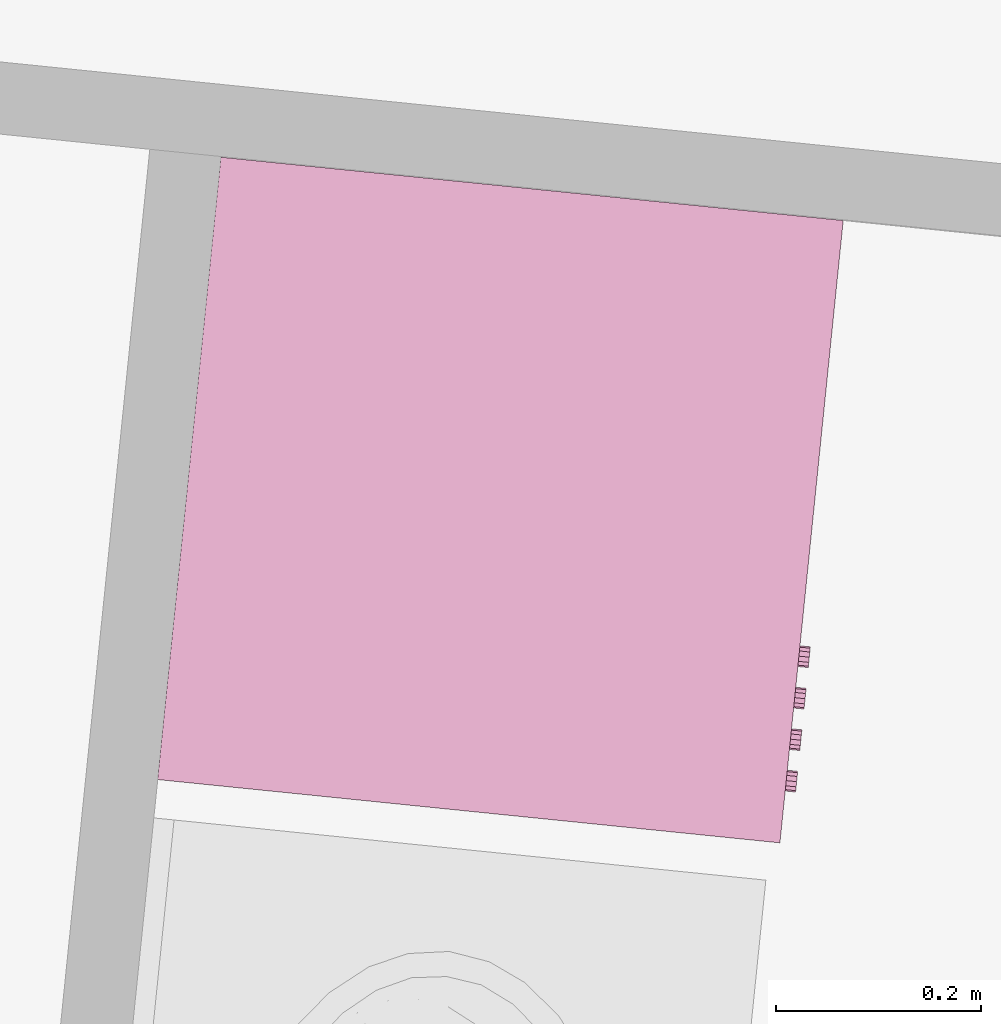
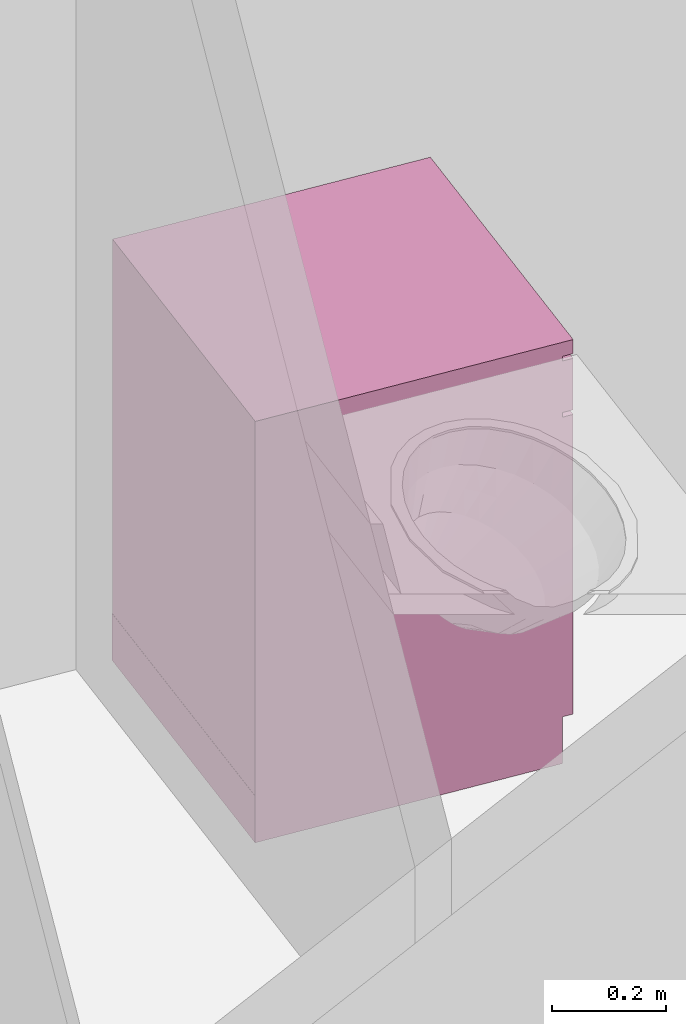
# One storey, part 135 of 164: 1 furnishing.
"""IFC2X3 building model written with IfcOpenShell, lengths in millimetres."""

from ifc_helpers import new_model, entity, si_unit, converted_unit, derived_unit, money_unit, direction, frame, origin_with_axes, place, context, subcontext, project, spatial, open_shell, faceted_brep, surface_model, type_object, element, save


model = new_model("IFC2X3")

# Units and contexts
model_context = context("Model", 3, precision=0.01, world=origin_with_axes(), true_north=direction((0.0, 1.0)))
body_context = subcontext(model_context, "Body", "Model", "MODEL_VIEW")
ifc_project = project(units=[si_unit("LENGTHUNIT", "METRE", prefix="MILLI"), si_unit("AREAUNIT", "SQUARE_METRE"), si_unit("VOLUMEUNIT", "CUBIC_METRE"), converted_unit("PLANEANGLEUNIT", "DEGREE", entity("IfcPlaneAngleMeasure", 0.0174532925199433), si_unit("PLANEANGLEUNIT", "RADIAN"), dimensions=[0, 0, 0, 0, 0, 0, 0]), money_unit("USD"), converted_unit("TIMEUNIT", "Year", entity("IfcTimeMeasure", 31557600.0), si_unit("TIMEUNIT", "SECOND"), dimensions=[0, 0, 1, 0, 0, 0, 0]), si_unit("MASSUNIT", "GRAM", prefix="KILO"), si_unit("THERMODYNAMICTEMPERATUREUNIT", "DEGREE_CELSIUS"), si_unit("LUMINOUSINTENSITYUNIT", "LUMEN"), si_unit("ENERGYUNIT", "JOULE", prefix="MEGA"), derived_unit("THERMALCONDUCTANCEUNIT", [(si_unit("POWERUNIT", "WATT"), 1), (si_unit("LENGTHUNIT", "METRE"), -1), (si_unit("THERMODYNAMICTEMPERATUREUNIT", "KELVIN"), -1)]), derived_unit("SPECIFICHEATCAPACITYUNIT", [(si_unit("ENERGYUNIT", "JOULE"), 1), (si_unit("MASSUNIT", "GRAM", prefix="KILO"), -1), (si_unit("THERMODYNAMICTEMPERATUREUNIT", "KELVIN"), -1)]), derived_unit("MASSDENSITYUNIT", [(si_unit("MASSUNIT", "GRAM", prefix="KILO"), 1), (si_unit("VOLUMEUNIT", "CUBIC_METRE"), -1)])], contexts=[model_context])

# Site, building, storey
site_placement = place(None, origin_with_axes())
site = spatial("IfcSite", under=ifc_project, at=site_placement, Name="Site", CompositionType="ELEMENT")
building_placement = place(site_placement, origin_with_axes())
building = spatial("IfcBuilding", under=site, at=building_placement, Name="Bâtiment", CompositionType="ELEMENT")
storey_placement = place(building_placement, frame((0.0, 0.0, 5750.0), z_axis=(0.0, 0.0, 1.0), x_axis=(1.0, 0.0, 0.0)))
storey = spatial("IfcBuildingStorey", under=building, at=storey_placement, Name="Etage1", CompositionType="ELEMENT", Elevation=5750.0)

# Furnishing
furnishing_element_type = type_object("IfcFurnishingElementType", Name="Machine à laver")
furnishing_placement = place(storey_placement, frame((2232076.43638497, -610512.6608663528, 0.0), z_axis=(0.0, 0.0, 1.0), x_axis=(0.10118792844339, 0.9948673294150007, 0.0)))
element("IfcFurnishingElement", 1, at=furnishing_placement, inside=storey, type_object=furnishing_element_type, Name="Obj.-003", context=body_context, shape_type="SurfaceModel", body=[
    faceted_brep([(0.0, 20.33333333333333, 100.0), (610.0, 20.33333333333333, 100.0), (610.0, 0.0, 100.0), (0.0, 0.0, 100.0), (0.0, 20.33333333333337, 740.0), (610.0, 20.33333333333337, 740.0), (479.2857142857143, 20.33333333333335, 420.0000000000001), (473.3470725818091, 20.33333333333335, 465.1084621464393), (455.935856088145, 20.33333333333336, 507.1428571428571), (428.2386104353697, 20.33333333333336, 543.2386104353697), (392.1428571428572, 20.33333333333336, 570.935856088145), (350.1084621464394, 20.33333333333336, 588.347072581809), (305.0000000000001, 20.33333333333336, 594.2857142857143), (259.8915378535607, 20.33333333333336, 588.347072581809), (217.8571428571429, 20.33333333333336, 570.9358560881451), (181.7613895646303, 20.33333333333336, 543.2386104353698), (154.0641439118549, 20.33333333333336, 507.1428571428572), (136.6529274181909, 20.33333333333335, 465.1084621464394), (130.7142857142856, 20.33333333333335, 420.0000000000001), (136.6529274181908, 20.33333333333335, 374.8915378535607), (154.0641439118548, 20.33333333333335, 332.8571428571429), (181.7613895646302, 20.33333333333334, 296.7613895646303), (217.8571428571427, 20.33333333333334, 269.064143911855), (259.8915378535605, 20.33333333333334, 251.6529274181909), (304.9999999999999, 20.33333333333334, 245.7142857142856), (350.1084621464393, 20.33333333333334, 251.6529274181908), (392.1428571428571, 20.33333333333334, 269.0641439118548), (428.2386104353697, 20.33333333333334, 296.7613895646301), (455.935856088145, 20.33333333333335, 332.8571428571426), (473.3470725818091, 20.33333333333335, 374.8915378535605), (610.0, 0.0, 740.0), (0.0, 0.0, 740.0), (479.2857142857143, 0.0, 420.0000000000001), (473.3470725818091, 0.0, 374.8915378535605), (455.935856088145, 0.0, 332.8571428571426), (428.2386104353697, 0.0, 296.7613895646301), (392.1428571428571, 0.0, 269.0641439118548), (350.1084621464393, 0.0, 251.6529274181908), (304.9999999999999, 0.0, 245.7142857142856), (259.8915378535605, 0.0, 251.6529274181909), (217.8571428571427, 0.0, 269.064143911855), (181.7613895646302, 0.0, 296.7613895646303), (154.0641439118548, 0.0, 332.8571428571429), (136.6529274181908, 0.0, 374.8915378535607), (130.7142857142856, 0.0, 420.0000000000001), (136.6529274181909, 0.0, 465.1084621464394), (154.0641439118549, 0.0, 507.1428571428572), (181.7613895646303, 0.0, 543.2386104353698), (217.8571428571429, 0.0, 570.9358560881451), (259.8915378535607, 0.0, 588.347072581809), (305.0000000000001, 0.0, 594.2857142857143), (350.1084621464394, 0.0, 588.347072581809), (392.1428571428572, 0.0, 570.935856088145), (428.2386104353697, 0.0, 543.2386104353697), (455.935856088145, 0.0, 507.1428571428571), (473.3470725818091, 0.0, 465.1084621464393)], [[[0, 1, 2, 3]], [[0, 4, 5, 1], [6, 7, 8, 9, 10, 11, 12, 13, 14, 15, 16, 17, 18, 19, 20, 21, 22, 23, 24, 25, 26, 27, 28, 29]], [[1, 5, 30, 2]], [[3, 2, 30, 31], [32, 33, 34, 35, 36, 37, 38, 39, 40, 41, 42, 43, 44, 45, 46, 47, 48, 49, 50, 51, 52, 53, 54, 55]], [[4, 0, 3, 31]], [[5, 4, 31, 30]], [[7, 6, 32, 55]], [[8, 7, 55, 54]], [[9, 8, 54, 53]], [[10, 9, 53, 52]], [[11, 10, 52, 51]], [[12, 11, 51, 50]], [[13, 12, 50, 49]], [[14, 13, 49, 48]], [[15, 14, 48, 47]], [[16, 15, 47, 46]], [[17, 16, 46, 45]], [[18, 17, 45, 44]], [[19, 18, 44, 43]], [[20, 19, 43, 42]], [[21, 20, 42, 41]], [[22, 21, 41, 40]], [[23, 22, 40, 39]], [[24, 23, 39, 38]], [[25, 24, 38, 37]], [[26, 25, 37, 36]], [[27, 26, 36, 35]], [[28, 27, 35, 34]], [[29, 28, 34, 33]], [[6, 29, 33, 32]]]),
    faceted_brep([(479.2857142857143, 40.66666666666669, 420.0000000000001), (473.3470725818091, 40.66666666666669, 465.1084621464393), (473.3470725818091, 20.33333333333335, 465.1084621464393), (479.2857142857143, 20.33333333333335, 420.0000000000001), (473.3470725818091, 40.66666666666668, 374.8915378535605), (455.935856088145, 40.66666666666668, 332.8571428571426), (428.2386104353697, 40.66666666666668, 296.7613895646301), (392.1428571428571, 40.66666666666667, 269.0641439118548), (350.1084621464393, 40.66666666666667, 251.6529274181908), (304.9999999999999, 40.66666666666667, 245.7142857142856), (259.8915378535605, 40.66666666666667, 251.6529274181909), (217.8571428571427, 40.66666666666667, 269.064143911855), (181.7613895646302, 40.66666666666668, 296.7613895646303), (154.0641439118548, 40.66666666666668, 332.8571428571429), (136.6529274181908, 40.66666666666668, 374.8915378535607), (130.7142857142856, 40.66666666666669, 420.0000000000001), (136.6529274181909, 40.66666666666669, 465.1084621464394), (154.0641439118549, 40.66666666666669, 507.1428571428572), (181.7613895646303, 40.66666666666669, 543.2386104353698), (217.8571428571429, 40.66666666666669, 570.9358560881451), (259.8915378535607, 40.66666666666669, 588.347072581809), (305.0000000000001, 40.66666666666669, 594.2857142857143), (350.1084621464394, 40.66666666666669, 588.347072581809), (392.1428571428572, 40.66666666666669, 570.935856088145), (428.2386104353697, 40.66666666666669, 543.2386104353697), (455.935856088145, 40.66666666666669, 507.1428571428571), (444.4285714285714, 40.66666666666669, 420.0000000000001), (439.6776580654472, 40.66666666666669, 456.0867697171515), (425.748684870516, 40.66666666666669, 489.7142857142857), (403.5908883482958, 40.66666666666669, 518.5908883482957), (374.7142857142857, 40.66666666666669, 540.748684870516), (341.0867697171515, 40.66666666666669, 554.6776580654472), (305.0000000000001, 40.66666666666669, 559.4285714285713), (268.9132302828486, 40.66666666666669, 554.6776580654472), (235.2857142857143, 40.66666666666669, 540.7486848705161), (206.4091116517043, 40.66666666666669, 518.5908883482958), (184.251315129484, 40.66666666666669, 489.7142857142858), (170.3223419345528, 40.66666666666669, 456.0867697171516), (165.5714285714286, 40.66666666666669, 420.0000000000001), (170.3223419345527, 40.66666666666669, 383.9132302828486), (184.2513151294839, 40.66666666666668, 350.2857142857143), (206.4091116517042, 40.66666666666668, 321.4091116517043), (235.2857142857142, 40.66666666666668, 299.251315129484), (268.9132302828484, 40.66666666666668, 285.3223419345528), (304.9999999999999, 40.66666666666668, 280.5714285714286), (341.0867697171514, 40.66666666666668, 285.3223419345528), (374.7142857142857, 40.66666666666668, 299.2513151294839), (403.5908883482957, 40.66666666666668, 321.4091116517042), (425.748684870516, 40.66666666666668, 350.2857142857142), (439.6776580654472, 40.66666666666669, 383.9132302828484), (455.935856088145, 20.33333333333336, 507.1428571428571), (428.2386104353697, 20.33333333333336, 543.2386104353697), (392.1428571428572, 20.33333333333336, 570.935856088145), (350.1084621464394, 20.33333333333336, 588.347072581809), (305.0000000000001, 20.33333333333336, 594.2857142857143), (259.8915378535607, 20.33333333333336, 588.347072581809), (217.8571428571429, 20.33333333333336, 570.9358560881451), (181.7613895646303, 20.33333333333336, 543.2386104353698), (154.0641439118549, 20.33333333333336, 507.1428571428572), (136.6529274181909, 20.33333333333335, 465.1084621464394), (130.7142857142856, 20.33333333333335, 420.0000000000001), (136.6529274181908, 20.33333333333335, 374.8915378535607), (154.0641439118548, 20.33333333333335, 332.8571428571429), (181.7613895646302, 20.33333333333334, 296.7613895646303), (217.8571428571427, 20.33333333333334, 269.064143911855), (259.8915378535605, 20.33333333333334, 251.6529274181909), (304.9999999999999, 20.33333333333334, 245.7142857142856), (350.1084621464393, 20.33333333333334, 251.6529274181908), (392.1428571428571, 20.33333333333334, 269.0641439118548), (428.2386104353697, 20.33333333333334, 296.7613895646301), (455.935856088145, 20.33333333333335, 332.8571428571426), (473.3470725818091, 20.33333333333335, 374.8915378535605), (444.4285714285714, 20.33333333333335, 420.0000000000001), (439.6776580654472, 20.33333333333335, 383.9132302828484), (425.748684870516, 20.33333333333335, 350.2857142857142), (403.5908883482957, 20.33333333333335, 321.4091116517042), (374.7142857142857, 20.33333333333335, 299.2513151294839), (341.0867697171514, 20.33333333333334, 285.3223419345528), (304.9999999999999, 20.33333333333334, 280.5714285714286), (268.9132302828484, 20.33333333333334, 285.3223419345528), (235.2857142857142, 20.33333333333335, 299.251315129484), (206.4091116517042, 20.33333333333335, 321.4091116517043), (184.2513151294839, 20.33333333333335, 350.2857142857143), (170.3223419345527, 20.33333333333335, 383.9132302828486), (165.5714285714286, 20.33333333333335, 420.0000000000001), (170.3223419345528, 20.33333333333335, 456.0867697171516), (184.251315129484, 20.33333333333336, 489.7142857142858), (206.4091116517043, 20.33333333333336, 518.5908883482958), (235.2857142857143, 20.33333333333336, 540.7486848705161), (268.9132302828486, 20.33333333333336, 554.6776580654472), (305.0000000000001, 20.33333333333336, 559.4285714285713), (341.0867697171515, 20.33333333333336, 554.6776580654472), (374.7142857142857, 20.33333333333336, 540.748684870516), (403.5908883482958, 20.33333333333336, 518.5908883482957), (425.748684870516, 20.33333333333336, 489.7142857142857), (439.6776580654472, 20.33333333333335, 456.0867697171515)], [[[0, 1, 2, 3]], [[0, 4, 5, 6, 7, 8, 9, 10, 11, 12, 13, 14, 15, 16, 17, 18, 19, 20, 21, 22, 23, 24, 25, 1], [26, 27, 28, 29, 30, 31, 32, 33, 34, 35, 36, 37, 38, 39, 40, 41, 42, 43, 44, 45, 46, 47, 48, 49]], [[1, 25, 50, 2]], [[3, 2, 50, 51, 52, 53, 54, 55, 56, 57, 58, 59, 60, 61, 62, 63, 64, 65, 66, 67, 68, 69, 70, 71], [72, 73, 74, 75, 76, 77, 78, 79, 80, 81, 82, 83, 84, 85, 86, 87, 88, 89, 90, 91, 92, 93, 94, 95]], [[4, 0, 3, 71]], [[5, 4, 71, 70]], [[6, 5, 70, 69]], [[7, 6, 69, 68]], [[8, 7, 68, 67]], [[9, 8, 67, 66]], [[10, 9, 66, 65]], [[11, 10, 65, 64]], [[12, 11, 64, 63]], [[13, 12, 63, 62]], [[14, 13, 62, 61]], [[15, 14, 61, 60]], [[16, 15, 60, 59]], [[17, 16, 59, 58]], [[18, 17, 58, 57]], [[19, 18, 57, 56]], [[20, 19, 56, 55]], [[21, 20, 55, 54]], [[22, 21, 54, 53]], [[23, 22, 53, 52]], [[24, 23, 52, 51]], [[25, 24, 51, 50]], [[27, 26, 72, 95]], [[28, 27, 95, 94]], [[29, 28, 94, 93]], [[30, 29, 93, 92]], [[31, 30, 92, 91]], [[32, 31, 91, 90]], [[33, 32, 90, 89]], [[34, 33, 89, 88]], [[35, 34, 88, 87]], [[36, 35, 87, 86]], [[37, 36, 86, 85]], [[38, 37, 85, 84]], [[39, 38, 84, 83]], [[40, 39, 83, 82]], [[41, 40, 82, 81]], [[42, 41, 81, 80]], [[43, 42, 80, 79]], [[44, 43, 79, 78]], [[45, 44, 78, 77]], [[46, 45, 77, 76]], [[47, 46, 76, 75]], [[48, 47, 75, 74]], [[49, 48, 74, 73]], [[26, 49, 73, 72]]]),
    surface_model("IfcShellBasedSurfaceModel", [(268.9132302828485, 40.6666666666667, 554.6776580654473), (305.0, 40.6666666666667, 559.4285714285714), (305.0, 142.3333333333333, 524.5714285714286), (277.9349227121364, 142.3333333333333, 521.0082435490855), (341.0867697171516, 40.6666666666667, 554.6776580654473), (332.0650772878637, 142.3333333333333, 521.0082435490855), (357.2857142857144, 142.3333333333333, 510.5615136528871), (378.9431662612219, 142.3333333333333, 493.9431662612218), (395.5615136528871, 142.3333333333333, 472.2857142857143), (406.0082435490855, 142.3333333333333, 447.0650772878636), (409.5714285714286, 142.3333333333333, 420.0), (406.0082435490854, 142.3333333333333, 392.9349227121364), (395.561513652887, 142.3333333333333, 367.7142857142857), (378.9431662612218, 142.3333333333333, 346.0568337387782), (357.2857142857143, 142.3333333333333, 329.438486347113), (332.0650772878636, 142.3333333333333, 318.9917564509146), (304.9999999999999, 142.3333333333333, 315.4285714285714), (277.9349227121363, 142.3333333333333, 318.9917564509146), (252.7142857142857, 142.3333333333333, 329.438486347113), (231.0568337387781, 142.3333333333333, 346.0568337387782), (214.4384863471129, 142.3333333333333, 367.7142857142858), (203.9917564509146, 142.3333333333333, 392.9349227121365), (200.4285714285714, 142.3333333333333, 420.0000000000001), (203.9917564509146, 142.3333333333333, 447.0650772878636), (214.438486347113, 142.3333333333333, 472.2857142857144), (231.0568337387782, 142.3333333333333, 493.9431662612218), (252.7142857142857, 142.3333333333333, 510.5615136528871), (235.2857142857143, 40.6666666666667, 540.7486848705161), (374.7142857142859, 40.6666666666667, 540.7486848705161), (403.5908883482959, 40.66666666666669, 518.5908883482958), (425.7486848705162, 40.66666666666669, 489.7142857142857), (439.6776580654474, 40.66666666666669, 456.0867697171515), (444.4285714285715, 40.66666666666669, 419.9999999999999), (439.6776580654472, 40.66666666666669, 383.9132302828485), (425.748684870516, 40.66666666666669, 350.2857142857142), (403.5908883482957, 40.66666666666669, 321.4091116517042), (374.7142857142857, 40.66666666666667, 299.2513151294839), (341.0867697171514, 40.66666666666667, 285.3223419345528), (304.9999999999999, 40.66666666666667, 280.5714285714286), (268.9132302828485, 40.66666666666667, 285.3223419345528), (235.2857142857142, 40.66666666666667, 299.251315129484), (206.4091116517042, 40.66666666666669, 321.4091116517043), (184.2513151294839, 40.66666666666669, 350.2857142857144), (170.3223419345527, 40.66666666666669, 383.9132302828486), (165.5714285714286, 40.66666666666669, 420.0000000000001), (170.3223419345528, 40.66666666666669, 456.0867697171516), (184.251315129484, 40.66666666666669, 489.7142857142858), (206.4091116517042, 40.66666666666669, 518.5908883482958)], [open_shell([[[0, 1, 2, 3]], [[1, 4, 5, 2]], [[2, 5, 6, 7, 8, 9, 10, 11, 12, 13, 14, 15, 16, 17, 18, 19, 20, 21, 22, 23, 24, 25, 26, 3]], [[27, 0, 3, 26]], [[4, 28, 6, 5]], [[28, 29, 7, 6]], [[29, 30, 8, 7]], [[30, 31, 9, 8]], [[31, 32, 10, 9]], [[32, 33, 11, 10]], [[33, 34, 12, 11]], [[34, 35, 13, 12]], [[35, 36, 14, 13]], [[36, 37, 15, 14]], [[37, 38, 16, 15]], [[38, 39, 17, 16]], [[39, 40, 18, 17]], [[40, 41, 19, 18]], [[41, 42, 20, 19]], [[42, 43, 21, 20]], [[43, 44, 22, 21]], [[44, 45, 23, 22]], [[45, 46, 24, 23]], [[46, 47, 25, 24]], [[47, 27, 26, 25]]])]),
    surface_model("IfcShellBasedSurfaceModel", [(0.0, 20.33333333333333, 100.0), (0.0, 20.33333333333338, 870.0), (0.0, 610.0, 870.0), (0.0, 610.0, 99.99999999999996)], [open_shell([[[0, 1, 2, 3]]])]),
    surface_model("IfcShellBasedSurfaceModel", [(610.0, 20.33333333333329, 100.0), (610.0, 20.33333333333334, 870.0), (610.0, 610.0, 870.0), (610.0, 610.0, 99.99999999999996)], [open_shell([[[0, 1, 2, 3]]])]),
    surface_model("IfcShellBasedSurfaceModel", [(0.0, 610.0, 100.0), (0.0, 610.0, 870.0), (610.0, 610.0, 870.0), (610.0, 610.0, 100.0)], [open_shell([[[0, 1, 2, 3]]])]),
    faceted_brep([(0.0, 20.33333333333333, 0.0), (610.0, 20.33333333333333, 0.0), (610.0, 20.33333333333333, 100.0), (0.0, 20.33333333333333, 100.0), (0.0, 610.3333333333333, 0.0), (610.0, 610.3333333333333, 0.0), (610.0, 610.3333333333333, 100.0), (0.0, 610.3333333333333, 100.0)], [[[0, 1, 2, 3]], [[0, 4, 5, 1]], [[1, 5, 6, 2]], [[3, 2, 6, 7]], [[4, 0, 3, 7]], [[5, 4, 7, 6]]]),
    faceted_brep([(0.0, 20.33333333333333, 750.0), (610.0, 20.33333333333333, 750.0), (610.0, 0.0, 750.0), (0.0, 0.0, 750.0), (0.0, 20.33333333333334, 860.0), (610.0, 20.33333333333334, 860.0), (610.0, 0.0, 860.0), (0.0, 0.0, 860.0)], [[[0, 1, 2, 3]], [[0, 4, 5, 1]], [[1, 5, 6, 2]], [[3, 2, 6, 7]], [[4, 0, 3, 7]], [[5, 4, 7, 6]]]),
    surface_model("IfcShellBasedSurfaceModel", [(0.0, 20.33333333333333, 739.8333333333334), (0.0, 20.33333333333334, 869.8333333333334), (610.0, 20.33333333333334, 869.8333333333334), (610.0, 20.33333333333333, 739.8333333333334)], [open_shell([[[0, 1, 2, 3]]])]),
    faceted_brep([(0.0, 0.0, 870.0), (610.0, 0.0, 870.0), (610.0, 0.0, 900.0), (0.0, 0.0, 900.0), (0.0, 610.0, 870.0), (610.0, 610.0, 870.0), (610.0, 610.0, 900.0), (0.0, 610.0, 900.0)], [[[0, 1, 2, 3]], [[0, 4, 5, 1]], [[1, 5, 6, 2]], [[3, 2, 6, 7]], [[4, 0, 3, 7]], [[5, 4, 7, 6]]]),
    faceted_brep([(69.80459160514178, 0.0, 804.9166666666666), (66.08333333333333, 0.0, 801.1954083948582), (60.99999999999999, 0.0, 799.8333333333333), (55.91666666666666, 0.0, 801.1954083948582), (52.1954083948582, 0.0, 804.9166666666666), (50.83333333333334, 0.0, 809.9999999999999), (52.19540839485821, 0.0, 815.0833333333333), (55.91666666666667, 0.0, 818.8045916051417), (61.0, 0.0, 820.1666666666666), (66.08333333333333, 0.0, 818.8045916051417), (69.8045916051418, 0.0, 815.0833333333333), (71.16666666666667, 0.0, 809.9999999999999), (69.80459160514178, -10.16666666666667, 804.9166666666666), (66.08333333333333, -10.16666666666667, 801.1954083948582), (60.99999999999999, -10.16666666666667, 799.8333333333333), (55.91666666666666, -10.16666666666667, 801.1954083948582), (52.1954083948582, -10.16666666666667, 804.9166666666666), (50.83333333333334, -10.16666666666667, 809.9999999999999), (52.19540839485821, -10.16666666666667, 815.0833333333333), (55.91666666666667, -10.16666666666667, 818.8045916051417), (61.0, -10.16666666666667, 820.1666666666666), (66.08333333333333, -10.16666666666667, 818.8045916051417), (69.8045916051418, -10.16666666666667, 815.0833333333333), (71.16666666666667, -10.16666666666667, 809.9999999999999)], [[[0, 1, 2, 3, 4, 5, 6, 7, 8, 9, 10, 11]], [[1, 0, 12, 13]], [[2, 1, 13, 14]], [[3, 2, 14, 15]], [[4, 3, 15, 16]], [[5, 4, 16, 17]], [[6, 5, 17, 18]], [[7, 6, 18, 19]], [[8, 7, 19, 20]], [[9, 8, 20, 21]], [[10, 9, 21, 22]], [[11, 10, 22, 23]], [[0, 11, 23, 12]], [[12, 23, 22, 21, 20, 19, 18, 17, 16, 15, 14, 13]]]),
    faceted_brep([(110.4712582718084, 0.0, 804.9166666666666), (106.75, 0.0, 801.1954083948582), (101.6666666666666, 0.0, 799.8333333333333), (96.58333333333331, 0.0, 801.1954083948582), (92.86207506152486, 0.0, 804.9166666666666), (91.49999999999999, 0.0, 809.9999999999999), (92.86207506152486, 0.0, 815.0833333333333), (96.58333333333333, 0.0, 818.8045916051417), (101.6666666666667, 0.0, 820.1666666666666), (106.75, 0.0, 818.8045916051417), (110.4712582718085, 0.0, 815.0833333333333), (111.8333333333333, 0.0, 809.9999999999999), (110.4712582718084, -10.16666666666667, 804.9166666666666), (106.75, -10.16666666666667, 801.1954083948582), (101.6666666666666, -10.16666666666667, 799.8333333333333), (96.58333333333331, -10.16666666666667, 801.1954083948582), (92.86207506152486, -10.16666666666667, 804.9166666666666), (91.49999999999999, -10.16666666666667, 809.9999999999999), (92.86207506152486, -10.16666666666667, 815.0833333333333), (96.58333333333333, -10.16666666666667, 818.8045916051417), (101.6666666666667, -10.16666666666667, 820.1666666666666), (106.75, -10.16666666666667, 818.8045916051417), (110.4712582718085, -10.16666666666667, 815.0833333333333), (111.8333333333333, -10.16666666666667, 809.9999999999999)], [[[0, 1, 2, 3, 4, 5, 6, 7, 8, 9, 10, 11]], [[1, 0, 12, 13]], [[2, 1, 13, 14]], [[3, 2, 14, 15]], [[4, 3, 15, 16]], [[5, 4, 16, 17]], [[6, 5, 17, 18]], [[7, 6, 18, 19]], [[8, 7, 19, 20]], [[9, 8, 20, 21]], [[10, 9, 21, 22]], [[11, 10, 22, 23]], [[0, 11, 23, 12]], [[12, 23, 22, 21, 20, 19, 18, 17, 16, 15, 14, 13]]]),
    faceted_brep([(151.1379249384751, 0.0, 804.9166666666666), (147.4166666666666, 0.0, 801.1954083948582), (142.3333333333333, 0.0, 799.8333333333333), (137.25, 0.0, 801.1954083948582), (133.5287417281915, 0.0, 804.9166666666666), (132.1666666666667, 0.0, 809.9999999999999), (133.5287417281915, 0.0, 815.0833333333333), (137.25, 0.0, 818.8045916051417), (142.3333333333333, 0.0, 820.1666666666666), (147.4166666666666, 0.0, 818.8045916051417), (151.1379249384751, 0.0, 815.0833333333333), (152.5, 0.0, 809.9999999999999), (151.1379249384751, -10.16666666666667, 804.9166666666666), (147.4166666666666, -10.16666666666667, 801.1954083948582), (142.3333333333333, -10.16666666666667, 799.8333333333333), (137.25, -10.16666666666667, 801.1954083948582), (133.5287417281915, -10.16666666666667, 804.9166666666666), (132.1666666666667, -10.16666666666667, 809.9999999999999), (133.5287417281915, -10.16666666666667, 815.0833333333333), (137.25, -10.16666666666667, 818.8045916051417), (142.3333333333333, -10.16666666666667, 820.1666666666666), (147.4166666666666, -10.16666666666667, 818.8045916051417), (151.1379249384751, -10.16666666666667, 815.0833333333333), (152.5, -10.16666666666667, 809.9999999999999)], [[[0, 1, 2, 3, 4, 5, 6, 7, 8, 9, 10, 11]], [[1, 0, 12, 13]], [[2, 1, 13, 14]], [[3, 2, 14, 15]], [[4, 3, 15, 16]], [[5, 4, 16, 17]], [[6, 5, 17, 18]], [[7, 6, 18, 19]], [[8, 7, 19, 20]], [[9, 8, 20, 21]], [[10, 9, 21, 22]], [[11, 10, 22, 23]], [[0, 11, 23, 12]], [[12, 23, 22, 21, 20, 19, 18, 17, 16, 15, 14, 13]]]),
    faceted_brep([(191.8045916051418, 0.0, 804.9166666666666), (188.0833333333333, 0.0, 801.1954083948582), (183.0, 0.0, 799.8333333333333), (177.9166666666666, 0.0, 801.1954083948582), (174.1954083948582, 0.0, 804.9166666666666), (172.8333333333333, 0.0, 809.9999999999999), (174.1954083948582, 0.0, 815.0833333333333), (177.9166666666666, 0.0, 818.8045916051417), (183.0, 0.0, 820.1666666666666), (188.0833333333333, 0.0, 818.8045916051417), (191.8045916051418, 0.0, 815.0833333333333), (193.1666666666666, 0.0, 809.9999999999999), (191.8045916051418, -10.16666666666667, 804.9166666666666), (188.0833333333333, -10.16666666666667, 801.1954083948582), (183.0, -10.16666666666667, 799.8333333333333), (177.9166666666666, -10.16666666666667, 801.1954083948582), (174.1954083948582, -10.16666666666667, 804.9166666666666), (172.8333333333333, -10.16666666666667, 809.9999999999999), (174.1954083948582, -10.16666666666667, 815.0833333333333), (177.9166666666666, -10.16666666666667, 818.8045916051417), (183.0, -10.16666666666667, 820.1666666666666), (188.0833333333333, -10.16666666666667, 818.8045916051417), (191.8045916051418, -10.16666666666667, 815.0833333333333), (193.1666666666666, -10.16666666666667, 809.9999999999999)], [[[0, 1, 2, 3, 4, 5, 6, 7, 8, 9, 10, 11]], [[1, 0, 12, 13]], [[2, 1, 13, 14]], [[3, 2, 14, 15]], [[4, 3, 15, 16]], [[5, 4, 16, 17]], [[6, 5, 17, 18]], [[7, 6, 18, 19]], [[8, 7, 19, 20]], [[9, 8, 20, 21]], [[10, 9, 21, 22]], [[11, 10, 22, 23]], [[0, 11, 23, 12]], [[12, 23, 22, 21, 20, 19, 18, 17, 16, 15, 14, 13]]]),
])

save(model, "model.ifc")
